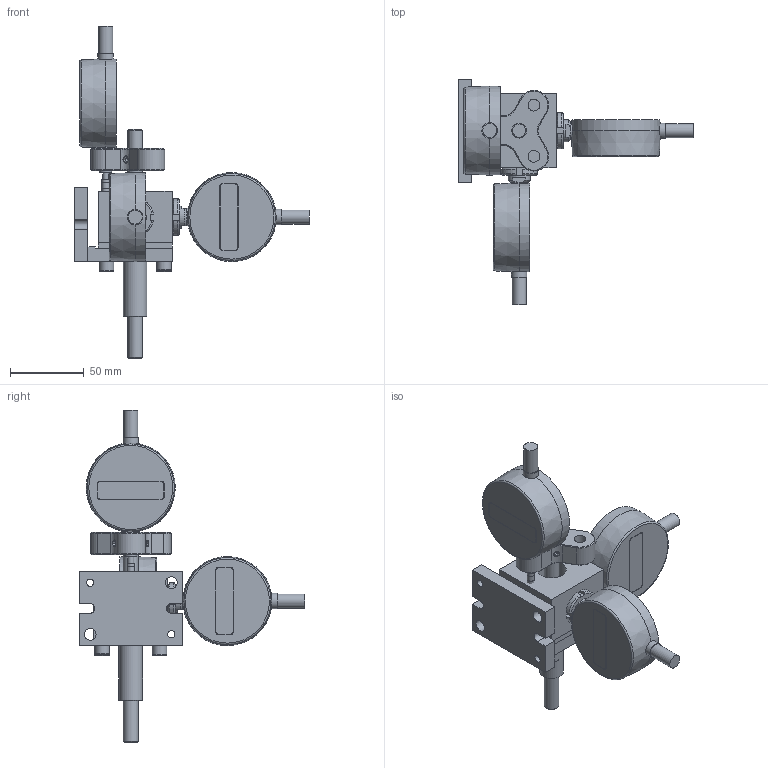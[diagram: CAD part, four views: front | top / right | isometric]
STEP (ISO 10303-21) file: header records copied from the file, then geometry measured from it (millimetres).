
FILE_DESCRIPTION(/* description */ (''),/* implementation_level */ '2;1');
FILE_NAME(/* name */ 'C:\Local Work Area\Progetti\AP\CALIBRI\10.00 COMP\10.00-COMP-A-SQ.stp',/* time_stamp */ '2020-11-02T17:05:16+01:00',/* author */ ('CAD5'),/* organization */ (''),/* preprocessor_version */ 'ST-DEVELOPER v17.2',/* originating_system */ 'Autodesk Inventor 2019',/* authorisation */ '');
FILE_SCHEMA (('AUTOMOTIVE_DESIGN { 1 0 10303 214 3 1 1 }'));
Length unit declared in the file: millimetre
Products named in the file (24): 10.00-COMP-tutto; 05.01; 05.01-a; 05.01-b; 10.00-COMP-A_assieme per SB; 10.01-A; 07.02; 07.11; 10.03+M4; 10.03; UNI 5931 - M 6 x  25; 10.04-C; 10.04-C_1; UNI 5923 - M5 x 0,8 x 8; 03.56; GHIERA M15x1 KM2; id-s-543-681B; id-s-543-681B_1; puntale 120042; id-s-543-681B_2; id-s-543-681B.parta; id-s-543-681B.partb; Comparatore Mahr punta 901 ; 10.11
Assembly tree (33 placements, depth 4):
  10.00-COMP-tutto
    05.01
      05.01-a
      05.01-b
    10.00-COMP-A_assieme per SB
      10.01-A
      07.02
      07.11
      10.03+M4
        10.03
      UNI 5931 - M 6 x  25  x2
      10.04-C
        10.04-C_1
        UNI 5923 - M5 x 0,8 x 8  x2
      03.56  x2
      GHIERA M15x1 KM2  x2
      id-s-543-681B
        id-s-543-681B.parta
        id-s-543-681B.partb
      puntale 120042  x2
      id-s-543-681B_1
        id-s-543-681B.parta
        id-s-543-681B.partb
      id-s-543-681B_2
        id-s-543-681B.parta
        id-s-543-681B.partb
      Comparatore Mahr punta 901 
    10.11  x2
Bounding box: 159 x 153 x 225 mm (x, y, z)
Volume: 388440 mm3; surface area: 103203.7 mm2
Topology: 26 solids, 26 shells, 453 faces, 1160 edges, 794 vertices
Faces by surface type: plane 229, cylinder 135, cone 69, torus 19, sphere 1
Full cylindrical faces by diameter (mm): 2.013 x3, 2.5 x2, 3 x3, 3.242 x1, 3.8 x1, 4 x1, 4.134 x4, 4.917 x6, 5 x11, 6 x5, 6.5 x2, 7 x2, 8 x18, 8.2 x4, 9.5 x3, 10 x8, 10.5 x3, 11 x1, 12 x3, 13.917 x3, 15 x4, 16 x1, 19 x1, 20 x1, 24 x1, 25 x1, 35 x1, 44 x1
Entity records: 10071 total; most frequent: CARTESIAN_POINT 2076, DIRECTION 1617, ORIENTED_EDGE 1416, EDGE_CURVE 708, AXIS2_PLACEMENT_3D 642, VERTEX_POINT 491, EDGE_LOOP 361, LINE 333
